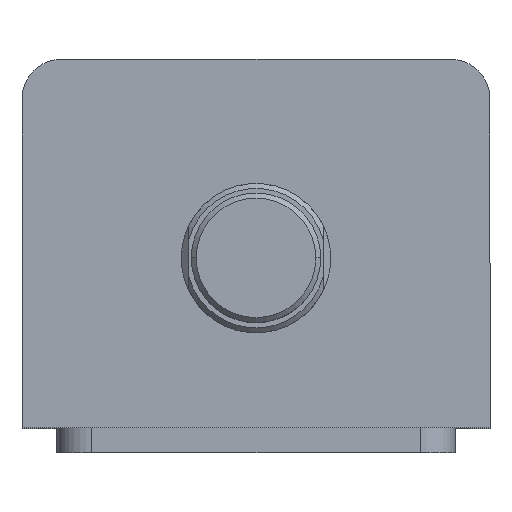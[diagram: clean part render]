
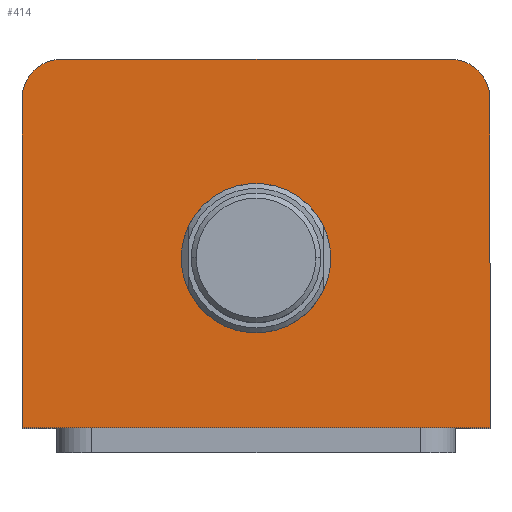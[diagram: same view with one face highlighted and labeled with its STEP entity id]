
A CAD part, top view. The second image highlights one B-rep face of the part: STEP entity #414.
In plain terms, the highlighted planar face has unit normal (0, 0, 1).
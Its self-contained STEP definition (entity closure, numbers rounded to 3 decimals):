
#4 = CARTESIAN_POINT ( 'NONE',  ( 47., 37., 120. ) ) ;
#119 = DIRECTION ( 'NONE',  ( 0., 1., 0. ) ) ;
#186 = EDGE_CURVE ( 'NONE', #2230, #2221, #712, .T. ) ;
#209 = EDGE_CURVE ( 'NONE', #2199, #2208, #674, .T. ) ;
#279 = AXIS2_PLACEMENT_3D ( 'NONE', #2938, #2956, #2969 ) ;
#352 = AXIS2_PLACEMENT_3D ( 'NONE', #2402, #2374, #2369 ) ;
#414 = ADVANCED_FACE ( 'NONE', ( #993, #1000 ), #2414, .T. ) ;
#674 = CIRCLE ( 'NONE', #279, 15. ) ;
#709 = VECTOR ( 'NONE', #119, 1000. ) ;
#712 = LINE ( 'NONE', #4, #709 ) ;
#866 = EDGE_LOOP ( 'NONE', ( #2538, #2535 ) ) ;
#993 = FACE_BOUND ( 'NONE', #866, .T. ) ;
#1000 = FACE_OUTER_BOUND ( 'NONE', #2144, .T. ) ;
#1074 = VECTOR ( 'NONE', #1757, 1000. ) ;
#1078 = LINE ( 'NONE', #1756, #1074 ) ;
#1090 = CIRCLE ( 'NONE', #1448, 8. ) ;
#1104 = CIRCLE ( 'NONE', #1456, 8. ) ;
#1112 = LINE ( 'NONE', #1834, #1115 ) ;
#1115 = VECTOR ( 'NONE', #1835, 1000. ) ;
#1128 = LINE ( 'NONE', #1850, #1131 ) ;
#1131 = VECTOR ( 'NONE', #1851, 1000. ) ;
#1145 = CIRCLE ( 'NONE', #1461, 15. ) ;
#1448 = AXIS2_PLACEMENT_3D ( 'NONE', #1788, #1789, #1790 ) ;
#1456 = AXIS2_PLACEMENT_3D ( 'NONE', #1816, #1817, #1818 ) ;
#1461 = AXIS2_PLACEMENT_3D ( 'NONE', #1867, #1868, #1869 ) ;
#1647 = CARTESIAN_POINT ( 'NONE',  ( -15., -3., 120. ) ) ;
#1656 = CARTESIAN_POINT ( 'NONE',  ( 15., -3., 120. ) ) ;
#1669 = CARTESIAN_POINT ( 'NONE',  ( 47., 29., 120. ) ) ;
#1678 = CARTESIAN_POINT ( 'NONE',  ( 47., -37., 120. ) ) ;
#1709 = CARTESIAN_POINT ( 'NONE',  ( 39., 37., 120. ) ) ;
#1713 = CARTESIAN_POINT ( 'NONE',  ( -39., 37., 120. ) ) ;
#1722 = CARTESIAN_POINT ( 'NONE',  ( -47., 29., 120. ) ) ;
#1724 = CARTESIAN_POINT ( 'NONE',  ( -47., -37., 120. ) ) ;
#1756 = CARTESIAN_POINT ( 'NONE',  ( -47., 37., 120. ) ) ;
#1757 = DIRECTION ( 'NONE',  ( -1., 0., 0. ) ) ;
#1788 = CARTESIAN_POINT ( 'NONE',  ( 39., 29., 120. ) ) ;
#1789 = DIRECTION ( 'NONE',  ( 0., 0., 1. ) ) ;
#1790 = DIRECTION ( 'NONE',  ( 1., 0., 0. ) ) ;
#1816 = CARTESIAN_POINT ( 'NONE',  ( -39., 29., 120. ) ) ;
#1817 = DIRECTION ( 'NONE',  ( 0., 0., 1. ) ) ;
#1818 = DIRECTION ( 'NONE',  ( 1., 0., 0. ) ) ;
#1834 = CARTESIAN_POINT ( 'NONE',  ( -47., -37., 120. ) ) ;
#1835 = DIRECTION ( 'NONE',  ( 1., 0., 0. ) ) ;
#1850 = CARTESIAN_POINT ( 'NONE',  ( -47., 37., 120. ) ) ;
#1851 = DIRECTION ( 'NONE',  ( 0., -1., 0. ) ) ;
#1867 = CARTESIAN_POINT ( 'NONE',  ( 0., -3., 120. ) ) ;
#1868 = DIRECTION ( 'NONE',  ( 0., 0., 1. ) ) ;
#1869 = DIRECTION ( 'NONE',  ( 1., 0., 0. ) ) ;
#2144 = EDGE_LOOP ( 'NONE', ( #2536, #2520, #2532, #2533, #2534, #2529 ) ) ;
#2199 = VERTEX_POINT ( 'NONE', #1647 ) ;
#2208 = VERTEX_POINT ( 'NONE', #1656 ) ;
#2221 = VERTEX_POINT ( 'NONE', #1669 ) ;
#2230 = VERTEX_POINT ( 'NONE', #1678 ) ;
#2289 = VERTEX_POINT ( 'NONE', #1709 ) ;
#2293 = VERTEX_POINT ( 'NONE', #1713 ) ;
#2302 = VERTEX_POINT ( 'NONE', #1722 ) ;
#2304 = VERTEX_POINT ( 'NONE', #1724 ) ;
#2369 = DIRECTION ( 'NONE',  ( 1., 0., 0. ) ) ;
#2374 = DIRECTION ( 'NONE',  ( 0., 0., 1. ) ) ;
#2402 = CARTESIAN_POINT ( 'NONE',  ( 0., 0., 120. ) ) ;
#2414 = PLANE ( 'NONE',  #352 ) ;
#2520 = ORIENTED_EDGE ( 'NONE', *, *, #3052, .T. ) ;
#2529 = ORIENTED_EDGE ( 'NONE', *, *, #3042, .T. ) ;
#2532 = ORIENTED_EDGE ( 'NONE', *, *, #3066, .T. ) ;
#2533 = ORIENTED_EDGE ( 'NONE', *, *, #3058, .T. ) ;
#2534 = ORIENTED_EDGE ( 'NONE', *, *, #186, .T. ) ;
#2535 = ORIENTED_EDGE ( 'NONE', *, *, #209, .F. ) ;
#2536 = ORIENTED_EDGE ( 'NONE', *, *, #3029, .T. ) ;
#2538 = ORIENTED_EDGE ( 'NONE', *, *, #3075, .F. ) ;
#2938 = CARTESIAN_POINT ( 'NONE',  ( 0., -3., 120. ) ) ;
#2956 = DIRECTION ( 'NONE',  ( 0., 0., 1. ) ) ;
#2969 = DIRECTION ( 'NONE',  ( 1., 0., 0. ) ) ;
#3029 = EDGE_CURVE ( 'NONE', #2289, #2293, #1078, .T. ) ;
#3042 = EDGE_CURVE ( 'NONE', #2221, #2289, #1090, .T. ) ;
#3052 = EDGE_CURVE ( 'NONE', #2293, #2302, #1104, .T. ) ;
#3058 = EDGE_CURVE ( 'NONE', #2304, #2230, #1112, .T. ) ;
#3066 = EDGE_CURVE ( 'NONE', #2302, #2304, #1128, .T. ) ;
#3075 = EDGE_CURVE ( 'NONE', #2208, #2199, #1145, .T. ) ;
